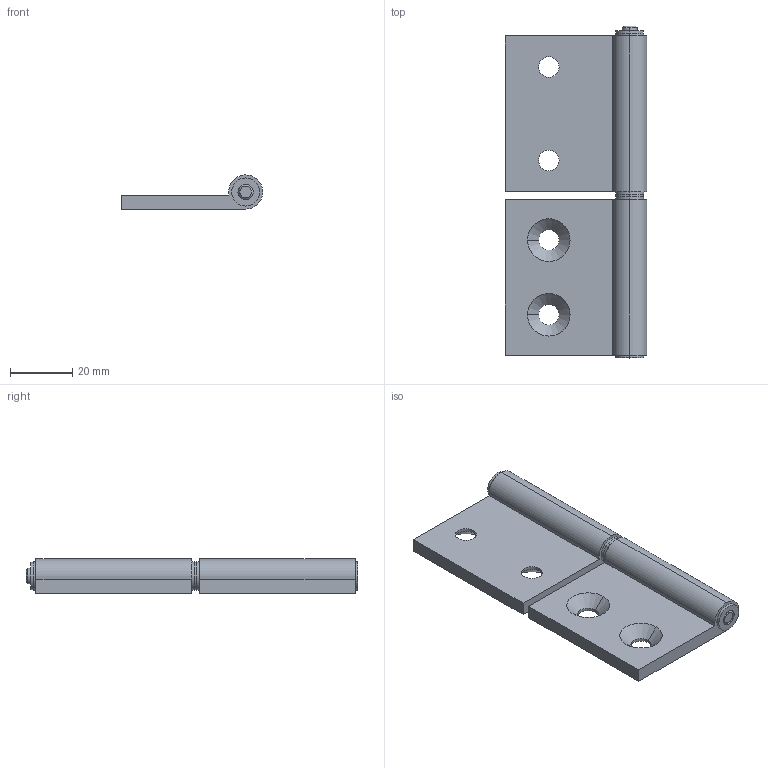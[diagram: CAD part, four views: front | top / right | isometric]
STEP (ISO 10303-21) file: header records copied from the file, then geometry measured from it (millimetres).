
FILE_DESCRIPTION (( 'STEP AP214' ), '1' );
FILE_NAME ('030.0175-Scharnier-40-innenliegend-rechts.step', '2023-08-04T09:13:55', ( '' ), ( '' ), 'SwSTEP 2.0', 'SolidWorks 2021', '' );
FILE_SCHEMA (( 'AUTOMOTIVE_DESIGN' ));
Length unit declared in the file: millimetre
Products named in the file (1): 030.0175-Scharnier-40-innenliegend-rechts
Bounding box: 45.5 x 106.7 x 11 mm (x, y, z)
Volume: 24617.1 mm3; surface area: 14928.5 mm2
Topology: 2 solids, 2 shells, 57 faces, 126 edges, 80 vertices
Faces by surface type: cylinder 28, plane 17, cone 12
Entity records: 1655 total; most frequent: DIRECTION 310, CARTESIAN_POINT 264, ORIENTED_EDGE 252, AXIS2_PLACEMENT_3D 126, EDGE_CURVE 126, VERTEX_POINT 80, EDGE_LOOP 74, CIRCLE 68
